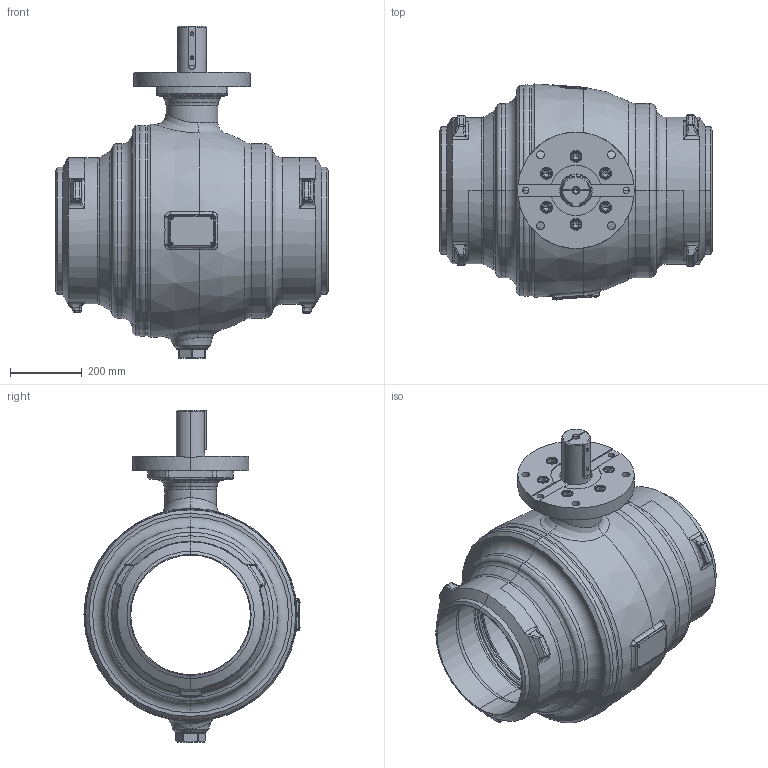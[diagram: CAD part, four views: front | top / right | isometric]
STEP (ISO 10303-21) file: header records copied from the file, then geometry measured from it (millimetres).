
FILE_DESCRIPTION((''),'2;1');
FILE_NAME('KHSVI_350_VVS_FR_WE','2026-01-27T14:12:29',('schwaba'),('KLINGER'),'CREO PARAMETRIC BY PTC INC, 2023014','CREO PARAMETRIC BY PTC INC, 2023014','');
FILE_SCHEMA(('CONFIG_CONTROL_DESIGN'));
Products named in the file (1): KHSVI_350_VVS_FR_WE
Bounding box: 762 x 603.26 x 927 mm (x, y, z)
Volume: 53915171.3 mm3; surface area: 5109008.8 mm2
Topology: 1 solids, 9 shells, 1506 faces, 3783 edges, 2336 vertices
Faces by surface type: plane 694, cylinder 304, cone 173, torus 168, bspline 121, sphere 46
Entity records: 99682 total; most frequent: CARTESIAN_POINT 65394, ORIENTED_EDGE 7494, DIRECTION 6762, EDGE_CURVE 3747, AXIS2_PLACEMENT_3D 2783, VERTEX_POINT 2336, EDGE_LOOP 1633, FACE_OUTER_BOUND 1506
